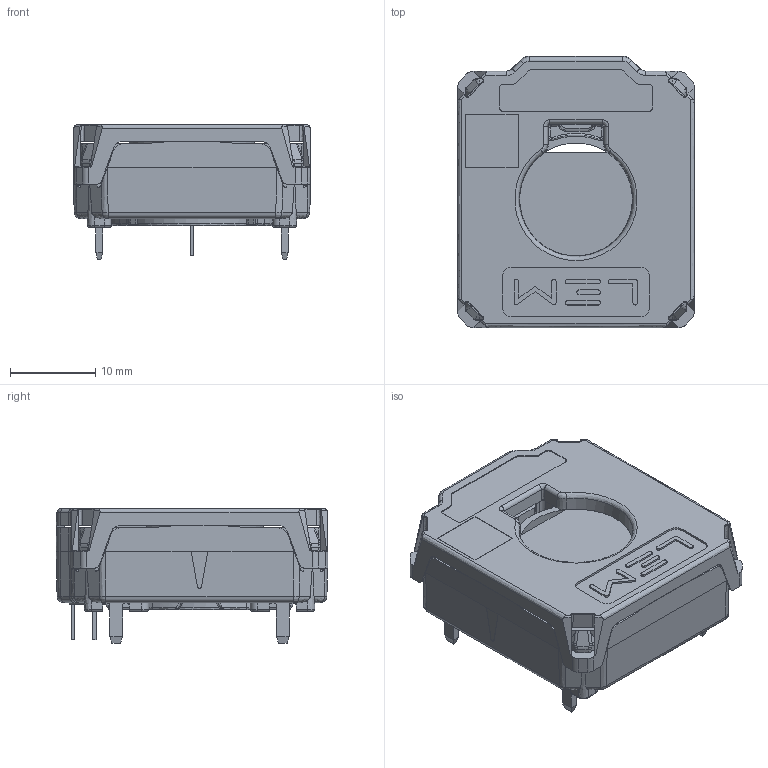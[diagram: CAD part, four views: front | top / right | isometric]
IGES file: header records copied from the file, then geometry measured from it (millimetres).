
Start section: Elysium IGES Interface
Global section: file name: 95HC:\Users\WZL\OneDrive - LEM International SA\Desktop\HC5FW\刓脰豪砐醴\BBOX-HC5FL\HC5FL-BBOX.igs; native system: Creo Elements/Direct Modeling 20.3D  14-Nov-2022; preprocessor: Creo Element/Direct IGES_3D V2.2; author: Unknown; organization: Unknown; date: 20240801.105456; units: millimetre
Bounding box: 27.7 x 31.75 x 15.76 mm (x, y, z)
Volume: 7437.8 mm3; surface area: 4948.3 mm2
Topology: 1 solids, 9 shells, 984 faces, 2613 edges, 1654 vertices
Faces by surface type: bspline 984
